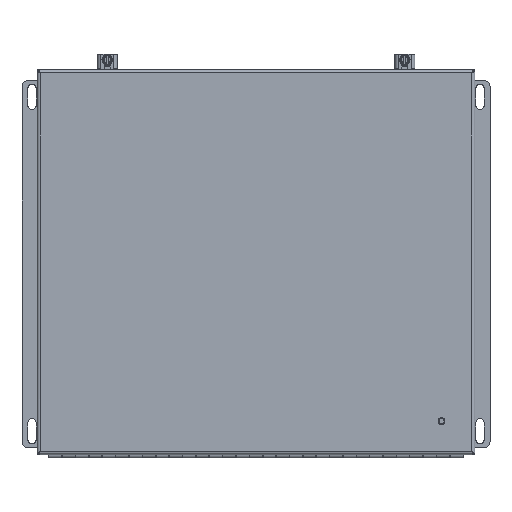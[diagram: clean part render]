
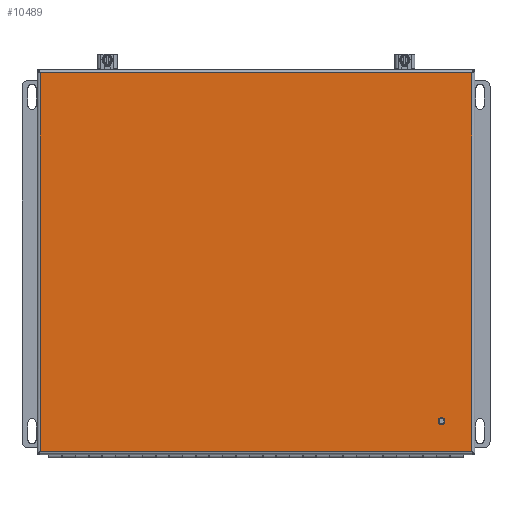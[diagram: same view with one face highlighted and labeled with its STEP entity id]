
A CAD part, top view. The second image highlights one B-rep face of the part: STEP entity #10489.
In plain terms, the highlighted planar face has unit normal (0, 0, 1) as drawn and (0, 0, -1) by its records, which use the part's own axes.
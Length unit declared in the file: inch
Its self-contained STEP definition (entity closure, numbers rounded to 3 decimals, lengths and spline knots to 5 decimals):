
#8974=DIRECTION('',(0.,-1.,0.));
#8975=VECTOR('',#8974,14.161);
#8976=CARTESIAN_POINT('',(16.263,-0.00827,0.));
#8977=LINE('',#8976,#8975);
#9007=CARTESIAN_POINT('',(1.25,-13.03127,0.));
#9008=DIRECTION('',(0.,0.,-1.));
#9009=DIRECTION('',(0.,-1.,0.));
#9010=AXIS2_PLACEMENT_3D('',#9007,#9008,#9009);
#9015=CARTESIAN_POINT('',(1.25,-13.03127,0.));
#9016=DIRECTION('',(0.,0.,-1.));
#9017=DIRECTION('',(0.,1.,0.));
#9018=AXIS2_PLACEMENT_3D('',#9015,#9016,#9017);
#9275=DIRECTION('',(1.,0.,0.));
#9276=VECTOR('',#9275,16.151);
#9277=CARTESIAN_POINT('',(0.112,-14.16927,0.));
#9278=LINE('',#9277,#9276);
#9329=DIRECTION('',(0.,-1.,0.));
#9330=VECTOR('',#9329,14.161);
#9331=CARTESIAN_POINT('',(0.112,-0.00827,0.));
#9332=LINE('',#9331,#9330);
#9530=DIRECTION('',(1.,0.,0.));
#9531=VECTOR('',#9530,16.151);
#9532=CARTESIAN_POINT('',(0.112,-0.00827,0.));
#9533=LINE('',#9532,#9531);
#9822=CARTESIAN_POINT('',(0.112,-0.00827,0.));
#9823=CARTESIAN_POINT('',(16.263,-0.00827,0.));
#9824=VERTEX_POINT('',#9822);
#9825=VERTEX_POINT('',#9823);
#9838=CARTESIAN_POINT('',(0.112,-14.16927,0.));
#9839=CARTESIAN_POINT('',(16.263,-14.16927,0.));
#9840=VERTEX_POINT('',#9838);
#9841=VERTEX_POINT('',#9839);
#9850=CARTESIAN_POINT('',(1.25,-13.12932,0.));
#9851=CARTESIAN_POINT('',(1.25,-12.93322,0.));
#9852=VERTEX_POINT('',#9850);
#9853=VERTEX_POINT('',#9851);
#10469=CARTESIAN_POINT('',(0.,0.10373,0.));
#10470=DIRECTION('',(0.,0.,-1.));
#10471=DIRECTION('',(1.,0.,0.));
#10472=AXIS2_PLACEMENT_3D('',#10469,#10470,#10471);
#10473=PLANE('',#10472);
#10474=ORIENTED_EDGE('',*,*,#10459,.F.);
#10476=ORIENTED_EDGE('',*,*,#10475,.F.);
#10478=ORIENTED_EDGE('',*,*,#10477,.T.);
#10480=ORIENTED_EDGE('',*,*,#10479,.T.);
#10481=EDGE_LOOP('',(#10474,#10476,#10478,#10480));
#10482=FACE_OUTER_BOUND('',#10481,.F.);
#10484=ORIENTED_EDGE('',*,*,#10483,.T.);
#10486=ORIENTED_EDGE('',*,*,#10485,.T.);
#10487=EDGE_LOOP('',(#10484,#10486));
#10488=FACE_BOUND('',#10487,.F.);
#9011=CIRCLE('',#9010,0.09805);
#9019=CIRCLE('',#9018,0.09805);
#10459=EDGE_CURVE('',#9825,#9841,#8977,.T.);
#10475=EDGE_CURVE('',#9824,#9825,#9533,.T.);
#10477=EDGE_CURVE('',#9824,#9840,#9332,.T.);
#10479=EDGE_CURVE('',#9840,#9841,#9278,.T.);
#10483=EDGE_CURVE('',#9852,#9853,#9011,.T.);
#10485=EDGE_CURVE('',#9853,#9852,#9019,.T.);
#10489=ADVANCED_FACE('',(#10482,#10488),#10473,.T.);
